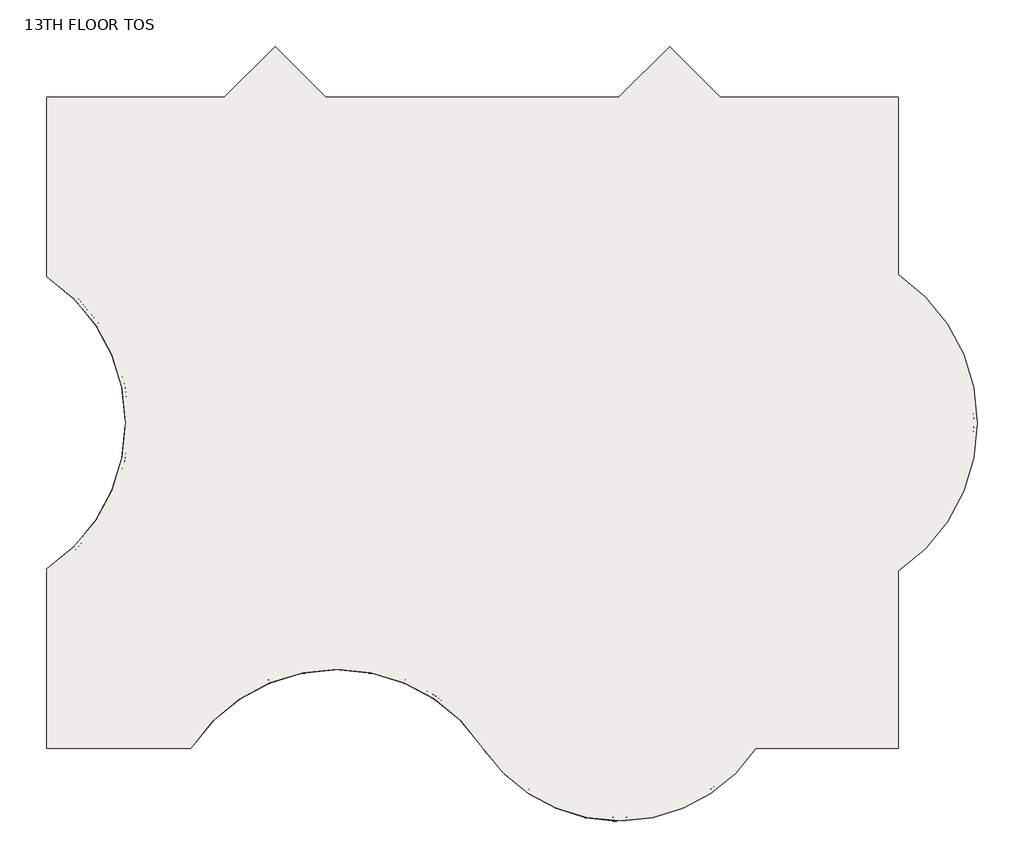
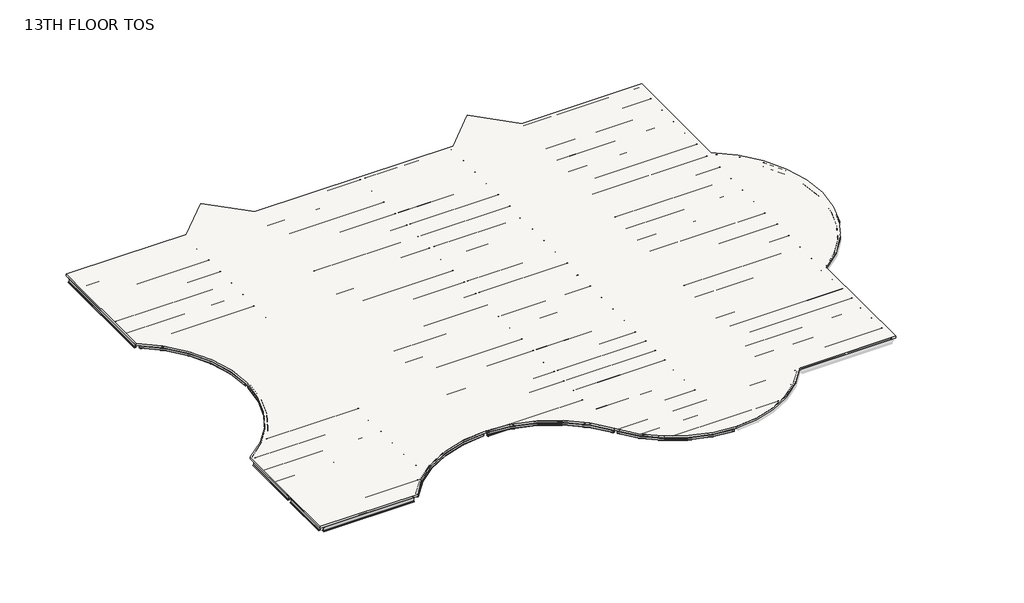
# One storey, part 1 of 2: 86 beams, 1 slab.
"""IFC4 building model written with IfcOpenShell, lengths in millimetres."""

from ifc_helpers import new_model, si_unit, frame, origin, place, context, project, spatial, polyline, circle_curve, transform, mapped, element, save
from ifc_brep_helpers import plane_surface, cylinder_surface, revolved_surface, advanced_brep
from components import m_hss_square_hss203_2x203_2x9_5_914ff4eb, m_hss_square_hss203_2x203_2x9_5_0e3d8e6e, m_hss_square_hss203_2x203_2x9_5_16dc1c03, m_hss_square_hss203_2x203_2x9_5_18346204, m_hss_square_hss203_2x203_2x9_5_d5f1e8c4, ub_universal_beams_ub254x102x28_4e7f3726, ub_universal_beams_ub305x165x40_c4d0385b, ub_universal_beams_ub305x165x40_d3abc31d, ub_universal_beams_ub305x165x40_0c73730f, ub_universal_beams_ub305x165x40_2a963f0c, ub_universal_beams_ub305x165x40_0a5f2f96, ub_universal_beams_ub305x165x40_d1f7c369, ub_universal_beams_ub305x165x40_83d7b7d5, ub_universal_beams_ub305x165x40_729a4ea5, ub_universal_beams_ub305x165x40_71dfa851, ub_universal_beams_ub305x165x40_619b5398, ub_universal_beams_ub305x165x40_c3492db1, ub_universal_beams_ub305x165x40_8f1c350d, ub_universal_beams_ub305x165x40_3afb5f90, ub_universal_beams_ub305x165x40_767d1929, ub_universal_beams_ub305x165x40_5941ca45, ub_universal_beams_ub356x171x51_ef72dcdd, ub_universal_beams_ub356x171x51_7f80702c, ub_universal_beams_ub356x171x51_dfc36663, ub_universal_beams_ub356x171x51_405a853e, ub_universal_beams_ub356x171x51_e47b7055, ub_universal_beams_ub356x171x51_e97f8d2e, ub_universal_beams_ub356x171x51_11d6b780, ub_universal_beams_ub356x171x51_76b2d20b, ub_universal_beams_ub356x171x51_145ecd4b, ub_universal_beams_ub356x171x51_c7dff8d2, ub_universal_beams_ub356x171x51_834c6e34, ub_universal_beams_ub356x171x51_a38b99de, ub_universal_beams_ub356x171x51_d8f4cdde, ub_universal_beams_ub356x171x51_8094f821, ub_universal_beams_ub356x171x51_e661f2e4, ub_universal_beams_ub356x171x51_3ee91673, ub_universal_beams_ub356x171x51_a871b283, ub_universal_beams_ub356x171x51_741bae58

model = new_model("IFC4")

# Units and contexts
model_context = context("Model", 3, world=origin())
ifc_project = project(units=[si_unit("LENGTHUNIT", "METRE", prefix="MILLI")], contexts=[model_context])

# Site, building, storey
site = spatial("IfcSite", under=ifc_project)
building = spatial("IfcBuilding", under=site)
storey = spatial("IfcBuildingStorey", under=building, Name="13TH FLOOR TOS", Elevation=59283.6)

# Beams
placement = place(None, origin())
m_hss_square_hss203_2x203_2x9_5_shape = m_hss_square_hss203_2x203_2x9_5_914ff4eb(model_context)
element("IfcBeam", 1, ObjectType="M_HSS Square : HSS203.2X203.2X9.5", at=placement, inside=storey, context=model_context, shape_type="MappedRepresentation", body=[
    mapped(m_hss_square_hss203_2x203_2x9_5_shape, transform((22710.575, 155.575, 59182.1), x_axis=(-0.552849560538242, 0.8332810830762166, 0.0), y_axis=(-0.8332810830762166, -0.552849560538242, 0.0), z_axis=(0.0, 0.0, 1.0))),
])
m_hss_square_hss203_2x203_2x9_5_2_shape = m_hss_square_hss203_2x203_2x9_5_0e3d8e6e(model_context)
element("IfcBeam", 2, ObjectType="M_HSS Square : HSS203.2X203.2X9.5", at=placement, inside=storey, context=model_context, shape_type="MappedRepresentation", body=[
    mapped(m_hss_square_hss203_2x203_2x9_5_2_shape, transform((155.575, 9299.575, 59182.1), x_axis=(0.8332810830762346, 0.5528495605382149, 0.0), y_axis=(-0.5528495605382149, 0.8332810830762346, 0.0), z_axis=(0.0, 0.0, 1.0))),
])
m_hss_square_hss203_2x203_2x9_5_3_shape = m_hss_square_hss203_2x203_2x9_5_16dc1c03(model_context)
element("IfcBeam", 3, ObjectType="M_HSS Square : HSS203.2X203.2X9.5", at=placement, inside=storey, context=model_context, shape_type="MappedRepresentation", body=[
    mapped(m_hss_square_hss203_2x203_2x9_5_3_shape, transform((155.575, 24539.575, 59182.1), x_axis=(0.8332810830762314, -0.5528495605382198, 0.0), y_axis=(0.5528495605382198, 0.8332810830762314, 0.0), z_axis=(0.0, 0.0, 1.0))),
])
m_hss_square_hss203_2x203_2x9_5_4_shape = m_hss_square_hss203_2x203_2x9_5_18346204(model_context)
element("IfcBeam", 4, ObjectType="M_HSS Square : HSS203.2X203.2X9.5", at=placement, inside=storey, context=model_context, shape_type="MappedRepresentation", body=[
    mapped(m_hss_square_hss203_2x203_2x9_5_4_shape, transform((29734.7266693, -3601.398624, 59182.1), x_axis=(-0.9999968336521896, -0.0025164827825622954, 0.0), y_axis=(0.0025164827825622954, -0.9999968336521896, 0.0), z_axis=(0.0, 0.0, 1.0))),
])
m_hss_square_hss203_2x203_2x9_5_5_shape = m_hss_square_hss203_2x203_2x9_5_d5f1e8c4(model_context)
element("IfcBeam", 5, ObjectType="M_HSS Square : HSS203.2X203.2X9.5", at=placement, inside=storey, context=model_context, shape_type="MappedRepresentation", body=[
    mapped(m_hss_square_hss203_2x203_2x9_5_5_shape, transform((15096.4572854, 4244.5731081, 59182.1), x_axis=(-0.9999997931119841, 0.0006432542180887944, 0.0), y_axis=(-0.0006432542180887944, -0.9999997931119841, 0.0), z_axis=(0.0, 0.0, 1.0))),
])
ub_universal_beams_ub254x102x28_shape = ub_universal_beams_ub254x102x28_4e7f3726(model_context)
element("IfcBeam", 6, ObjectType="UB-Universal Beams : UB254x102x28", at=placement, inside=storey, context=model_context, shape_type="MappedRepresentation", body=[
    mapped(ub_universal_beams_ub254x102x28_shape, transform((9299.575, 3210.915913, 59153.4), x_axis=(0.0, -1.0, 0.0), y_axis=(1.0, 0.0, 0.0), z_axis=(0.0, 0.0, 1.0))),
])
ub_universal_beams_ub305x165x40_shape = ub_universal_beams_ub305x165x40_c4d0385b(model_context)
element("IfcBeam", 7, ObjectType="UB-Universal Beams : UB305x165x40", at=placement, inside=storey, context=model_context, shape_type="MappedRepresentation", body=[
    mapped(ub_universal_beams_ub305x165x40_shape, transform((4727.575, 30635.575, 59131.9), x_axis=(1.0, 0.0, 0.0), y_axis=(0.0, 1.0, 0.0), z_axis=(0.0, 0.0, 1.0))),
])
element("IfcBeam", 8, ObjectType="UB-Universal Beams : UB305x165x40", at=placement, inside=storey, context=model_context, shape_type="MappedRepresentation", body=[
    mapped(ub_universal_beams_ub305x165x40_shape, transform((4727.575, 29111.575, 59131.9), x_axis=(1.0, 0.0, 0.0), y_axis=(0.0, 1.0, 0.0), z_axis=(0.0, 0.0, 1.0))),
])
element("IfcBeam", 9, ObjectType="UB-Universal Beams : UB305x165x40", at=placement, inside=storey, context=model_context, shape_type="MappedRepresentation", body=[
    mapped(ub_universal_beams_ub305x165x40_shape, transform((4727.575, 27587.575, 59131.9), x_axis=(1.0, 0.0, 0.0), y_axis=(0.0, 1.0, 0.0), z_axis=(0.0, 0.0, 1.0))),
])
element("IfcBeam", 10, ObjectType="UB-Universal Beams : UB305x165x40", at=placement, inside=storey, context=model_context, shape_type="MappedRepresentation", body=[
    mapped(ub_universal_beams_ub305x165x40_shape, transform((4727.575, 26063.575, 59131.9), x_axis=(1.0, 0.0, 0.0), y_axis=(0.0, 1.0, 0.0), z_axis=(0.0, 0.0, 1.0))),
])
element("IfcBeam", 11, ObjectType="UB-Universal Beams : UB305x165x40", at=placement, inside=storey, context=model_context, shape_type="MappedRepresentation", body=[
    mapped(ub_universal_beams_ub305x165x40_shape, transform((4727.575, 4727.575, 59131.9), x_axis=(-1.0, 0.0, 0.0), y_axis=(0.0, -1.0, 0.0), z_axis=(0.0, 0.0, 1.0))),
])
element("IfcBeam", 12, ObjectType="UB-Universal Beams : UB305x165x40", at=placement, inside=storey, context=model_context, shape_type="MappedRepresentation", body=[
    mapped(ub_universal_beams_ub305x165x40_shape, transform((4727.575, 6251.575, 59131.9), x_axis=(-1.0, 0.0, 0.0), y_axis=(0.0, -1.0, 0.0), z_axis=(0.0, 0.0, 1.0))),
])
element("IfcBeam", 13, ObjectType="UB-Universal Beams : UB305x165x40", at=placement, inside=storey, context=model_context, shape_type="MappedRepresentation", body=[
    mapped(ub_universal_beams_ub305x165x40_shape, transform((4727.575, 7775.575, 59131.9), x_axis=(-1.0, 0.0, 0.0), y_axis=(0.0, -1.0, 0.0), z_axis=(0.0, 0.0, 1.0))),
])
ub_universal_beams_ub305x165x40_2_shape = ub_universal_beams_ub305x165x40_d3abc31d(model_context)
element("IfcBeam", 14, ObjectType="UB-Universal Beams : UB305x165x40", at=placement, inside=storey, context=model_context, shape_type="MappedRepresentation", body=[
    mapped(ub_universal_beams_ub305x165x40_2_shape, transform((11885.575, 28938.325, 59131.9), x_axis=(1.0, 0.0, 0.0), y_axis=(0.0, 1.0, 0.0), z_axis=(0.0, 0.0, 1.0))),
])
element("IfcBeam", 15, ObjectType="UB-Universal Beams : UB305x165x40", at=placement, inside=storey, context=model_context, shape_type="MappedRepresentation", body=[
    mapped(ub_universal_beams_ub305x165x40_2_shape, transform((11885.575, 27472.075, 59131.9), x_axis=(1.0, 0.0, 0.0), y_axis=(0.0, 1.0, 0.0), z_axis=(0.0, 0.0, 1.0))),
])
element("IfcBeam", 16, ObjectType="UB-Universal Beams : UB305x165x40", at=placement, inside=storey, context=model_context, shape_type="MappedRepresentation", body=[
    mapped(ub_universal_beams_ub305x165x40_2_shape, transform((11885.575, 26005.825, 59131.9), x_axis=(1.0, 0.0, 0.0), y_axis=(0.0, 1.0, 0.0), z_axis=(0.0, 0.0, 1.0))),
])
element("IfcBeam", 17, ObjectType="UB-Universal Beams : UB305x165x40", at=placement, inside=storey, context=model_context, shape_type="MappedRepresentation", body=[
    mapped(ub_universal_beams_ub305x165x40_2_shape, transform((11885.575, 23015.575, 59131.9), x_axis=(1.0, 0.0, 0.0), y_axis=(0.0, 1.0, 0.0), z_axis=(0.0, 0.0, 1.0))),
])
element("IfcBeam", 18, ObjectType="UB-Universal Beams : UB305x165x40", at=placement, inside=storey, context=model_context, shape_type="MappedRepresentation", body=[
    mapped(ub_universal_beams_ub305x165x40_2_shape, transform((11885.575, 21491.575, 59131.9), x_axis=(1.0, 0.0, 0.0), y_axis=(0.0, 1.0, 0.0), z_axis=(0.0, 0.0, 1.0))),
])
element("IfcBeam", 19, ObjectType="UB-Universal Beams : UB305x165x40", at=placement, inside=storey, context=model_context, shape_type="MappedRepresentation", body=[
    mapped(ub_universal_beams_ub305x165x40_2_shape, transform((11885.575, 19967.575, 59131.9), x_axis=(1.0, 0.0, 0.0), y_axis=(0.0, 1.0, 0.0), z_axis=(0.0, 0.0, 1.0))),
])
element("IfcBeam", 20, ObjectType="UB-Universal Beams : UB305x165x40", at=placement, inside=storey, context=model_context, shape_type="MappedRepresentation", body=[
    mapped(ub_universal_beams_ub305x165x40_2_shape, transform((11885.575, 18443.575, 59131.9), x_axis=(1.0, 0.0, 0.0), y_axis=(0.0, 1.0, 0.0), z_axis=(0.0, 0.0, 1.0))),
])
element("IfcBeam", 21, ObjectType="UB-Universal Beams : UB305x165x40", at=placement, inside=storey, context=model_context, shape_type="MappedRepresentation", body=[
    mapped(ub_universal_beams_ub305x165x40_2_shape, transform((11885.575, 15395.575, 59131.9), x_axis=(1.0, 0.0, 0.0), y_axis=(0.0, 1.0, 0.0), z_axis=(0.0, 0.0, 1.0))),
])
element("IfcBeam", 22, ObjectType="UB-Universal Beams : UB305x165x40", at=placement, inside=storey, context=model_context, shape_type="MappedRepresentation", body=[
    mapped(ub_universal_beams_ub305x165x40_2_shape, transform((11885.575, 13871.575, 59131.9), x_axis=(1.0, 0.0, 0.0), y_axis=(0.0, 1.0, 0.0), z_axis=(0.0, 0.0, 1.0))),
])
element("IfcBeam", 23, ObjectType="UB-Universal Beams : UB305x165x40", at=placement, inside=storey, context=model_context, shape_type="MappedRepresentation", body=[
    mapped(ub_universal_beams_ub305x165x40_2_shape, transform((11885.575, 12347.575, 59131.9), x_axis=(1.0, 0.0, 0.0), y_axis=(0.0, 1.0, 0.0), z_axis=(0.0, 0.0, 1.0))),
])
element("IfcBeam", 24, ObjectType="UB-Universal Beams : UB305x165x40", at=placement, inside=storey, context=model_context, shape_type="MappedRepresentation", body=[
    mapped(ub_universal_beams_ub305x165x40_2_shape, transform((11885.575, 10823.575, 59131.9), x_axis=(1.0, 0.0, 0.0), y_axis=(0.0, 1.0, 0.0), z_axis=(0.0, 0.0, 1.0))),
])
element("IfcBeam", 25, ObjectType="UB-Universal Beams : UB305x165x40", at=placement, inside=storey, context=model_context, shape_type="MappedRepresentation", body=[
    mapped(ub_universal_beams_ub305x165x40_2_shape, transform((11885.575, 5026.1840956, 59131.9), x_axis=(-1.0, 0.0, 0.0), y_axis=(0.0, -1.0, 0.0), z_axis=(0.0, 0.0, 1.0))),
])
element("IfcBeam", 26, ObjectType="UB-Universal Beams : UB305x165x40", at=placement, inside=storey, context=model_context, shape_type="MappedRepresentation", body=[
    mapped(ub_universal_beams_ub305x165x40_2_shape, transform((11885.575, 6450.6477304, 59131.9), x_axis=(-1.0, 0.0, 0.0), y_axis=(0.0, -1.0, 0.0), z_axis=(0.0, 0.0, 1.0))),
])
element("IfcBeam", 27, ObjectType="UB-Universal Beams : UB305x165x40", at=placement, inside=storey, context=model_context, shape_type="MappedRepresentation", body=[
    mapped(ub_universal_beams_ub305x165x40_2_shape, transform((11885.575, 7875.1113652, 59131.9), x_axis=(-1.0, 0.0, 0.0), y_axis=(0.0, -1.0, 0.0), z_axis=(0.0, 0.0, 1.0))),
])
ub_universal_beams_ub305x165x40_3_shape = ub_universal_beams_ub305x165x40_0c73730f(model_context)
element("IfcBeam", 28, ObjectType="UB-Universal Beams : UB305x165x40", at=placement, inside=storey, context=model_context, shape_type="MappedRepresentation", body=[
    mapped(ub_universal_beams_ub305x165x40_3_shape, transform((18591.075, 5492.5943214, 59131.9), x_axis=(-1.0, 0.0, 0.0), y_axis=(0.0, -1.0, 0.0), z_axis=(0.0, 0.0, 1.0))),
])
element("IfcBeam", 29, ObjectType="UB-Universal Beams : UB305x165x40", at=placement, inside=storey, context=model_context, shape_type="MappedRepresentation", body=[
    mapped(ub_universal_beams_ub305x165x40_3_shape, transform((18591.075, 6761.5878809, 59131.9), x_axis=(-1.0, 0.0, 0.0), y_axis=(0.0, -1.0, 0.0), z_axis=(0.0, 0.0, 1.0))),
])
element("IfcBeam", 30, ObjectType="UB-Universal Beams : UB305x165x40", at=placement, inside=storey, context=model_context, shape_type="MappedRepresentation", body=[
    mapped(ub_universal_beams_ub305x165x40_3_shape, transform((18591.075, 8030.5814405, 59131.9), x_axis=(-1.0, 0.0, 0.0), y_axis=(0.0, -1.0, 0.0), z_axis=(0.0, 0.0, 1.0))),
])
element("IfcBeam", 31, ObjectType="UB-Universal Beams : UB305x165x40", at=placement, inside=storey, context=model_context, shape_type="MappedRepresentation", body=[
    mapped(ub_universal_beams_ub305x165x40_3_shape, transform((18591.075, 15395.575, 59131.9), x_axis=(1.0, 0.0, 0.0), y_axis=(0.0, 1.0, 0.0), z_axis=(0.0, 0.0, 1.0))),
])
element("IfcBeam", 32, ObjectType="UB-Universal Beams : UB305x165x40", at=placement, inside=storey, context=model_context, shape_type="MappedRepresentation", body=[
    mapped(ub_universal_beams_ub305x165x40_3_shape, transform((18591.075, 13871.575, 59131.9), x_axis=(1.0, 0.0, 0.0), y_axis=(0.0, 1.0, 0.0), z_axis=(0.0, 0.0, 1.0))),
])
element("IfcBeam", 33, ObjectType="UB-Universal Beams : UB305x165x40", at=placement, inside=storey, context=model_context, shape_type="MappedRepresentation", body=[
    mapped(ub_universal_beams_ub305x165x40_3_shape, transform((18591.075, 12347.575, 59131.9), x_axis=(1.0, 0.0, 0.0), y_axis=(0.0, 1.0, 0.0), z_axis=(0.0, 0.0, 1.0))),
])
element("IfcBeam", 34, ObjectType="UB-Universal Beams : UB305x165x40", at=placement, inside=storey, context=model_context, shape_type="MappedRepresentation", body=[
    mapped(ub_universal_beams_ub305x165x40_3_shape, transform((18591.075, 10823.575, 59131.9), x_axis=(1.0, 0.0, 0.0), y_axis=(0.0, 1.0, 0.0), z_axis=(0.0, 0.0, 1.0))),
])
ub_universal_beams_ub305x165x40_4_shape = ub_universal_beams_ub305x165x40_2a963f0c(model_context)
element("IfcBeam", 35, ObjectType="UB-Universal Beams : UB305x165x40", at=placement, inside=storey, context=model_context, shape_type="MappedRepresentation", body=[
    mapped(ub_universal_beams_ub305x165x40_4_shape, transform((26211.075, 15395.575, 59131.9), x_axis=(1.0, 0.0, 0.0), y_axis=(0.0, 1.0, 0.0), z_axis=(0.0, 0.0, 1.0))),
])
element("IfcBeam", 36, ObjectType="UB-Universal Beams : UB305x165x40", at=placement, inside=storey, context=model_context, shape_type="MappedRepresentation", body=[
    mapped(ub_universal_beams_ub305x165x40_4_shape, transform((26211.075, 13871.575, 59131.9), x_axis=(1.0, 0.0, 0.0), y_axis=(0.0, 1.0, 0.0), z_axis=(0.0, 0.0, 1.0))),
])
element("IfcBeam", 37, ObjectType="UB-Universal Beams : UB305x165x40", at=placement, inside=storey, context=model_context, shape_type="MappedRepresentation", body=[
    mapped(ub_universal_beams_ub305x165x40_4_shape, transform((26211.075, 12347.575, 59131.9), x_axis=(1.0, 0.0, 0.0), y_axis=(0.0, 1.0, 0.0), z_axis=(0.0, 0.0, 1.0))),
])
element("IfcBeam", 38, ObjectType="UB-Universal Beams : UB305x165x40", at=placement, inside=storey, context=model_context, shape_type="MappedRepresentation", body=[
    mapped(ub_universal_beams_ub305x165x40_4_shape, transform((26211.075, 10823.575, 59131.9), x_axis=(1.0, 0.0, 0.0), y_axis=(0.0, 1.0, 0.0), z_axis=(0.0, 0.0, 1.0))),
])
element("IfcBeam", 39, ObjectType="UB-Universal Beams : UB305x165x40", at=placement, inside=storey, context=model_context, shape_type="MappedRepresentation", body=[
    mapped(ub_universal_beams_ub305x165x40_4_shape, transform((26211.075, 5508.325, 59131.9), x_axis=(-1.0, 0.0, 0.0), y_axis=(0.0, -1.0, 0.0), z_axis=(0.0, 0.0, 1.0))),
])
element("IfcBeam", 40, ObjectType="UB-Universal Beams : UB305x165x40", at=placement, inside=storey, context=model_context, shape_type="MappedRepresentation", body=[
    mapped(ub_universal_beams_ub305x165x40_4_shape, transform((26211.075, 6772.075, 59131.9), x_axis=(-1.0, 0.0, 0.0), y_axis=(0.0, -1.0, 0.0), z_axis=(0.0, 0.0, 1.0))),
])
element("IfcBeam", 41, ObjectType="UB-Universal Beams : UB305x165x40", at=placement, inside=storey, context=model_context, shape_type="MappedRepresentation", body=[
    mapped(ub_universal_beams_ub305x165x40_4_shape, transform((26211.075, 8035.825, 59131.9), x_axis=(-1.0, 0.0, 0.0), y_axis=(0.0, -1.0, 0.0), z_axis=(0.0, 0.0, 1.0))),
])
element("IfcBeam", 42, ObjectType="UB-Universal Beams : UB305x165x40", at=placement, inside=storey, context=model_context, shape_type="MappedRepresentation", body=[
    mapped(ub_universal_beams_ub305x165x40_4_shape, transform((26211.075, 1518.575, 59131.9), x_axis=(-1.0, 0.0, 0.0), y_axis=(0.0, -1.0, 0.0), z_axis=(0.0, 0.0, 1.0))),
])
element("IfcBeam", 43, ObjectType="UB-Universal Beams : UB305x165x40", at=placement, inside=storey, context=model_context, shape_type="MappedRepresentation", body=[
    mapped(ub_universal_beams_ub305x165x40_4_shape, transform((26211.075, 2881.575, 59131.9), x_axis=(-1.0, 0.0, 0.0), y_axis=(0.0, -1.0, 0.0), z_axis=(0.0, 0.0, 1.0))),
])
ub_universal_beams_ub305x165x40_5_shape = ub_universal_beams_ub305x165x40_0a5f2f96(model_context)
element("IfcBeam", 44, ObjectType="UB-Universal Beams : UB305x165x40", at=placement, inside=storey, context=model_context, shape_type="MappedRepresentation", body=[
    mapped(ub_universal_beams_ub305x165x40_5_shape, transform((29713.575, -2349.0918253, 59131.9), x_axis=(-1.0, 0.0, 0.0), y_axis=(0.0, -1.0, 0.0), z_axis=(0.0, 0.0, 1.0))),
])
ub_universal_beams_ub305x165x40_6_shape = ub_universal_beams_ub305x165x40_d1f7c369(model_context)
element("IfcBeam", 45, ObjectType="UB-Universal Beams : UB305x165x40", at=placement, inside=storey, context=model_context, shape_type="MappedRepresentation", body=[
    mapped(ub_universal_beams_ub305x165x40_6_shape, transform((29713.575, -1096.7584126, 59131.9), x_axis=(-1.0, 0.0, 0.0), y_axis=(0.0, -1.0, 0.0), z_axis=(0.0, 0.0, 1.0))),
])
ub_universal_beams_ub305x165x40_7_shape = ub_universal_beams_ub305x165x40_83d7b7d5(model_context)
element("IfcBeam", 46, ObjectType="UB-Universal Beams : UB305x165x40", at=placement, inside=storey, context=model_context, shape_type="MappedRepresentation", body=[
    mapped(ub_universal_beams_ub305x165x40_7_shape, transform((22157.3041106, 1518.575, 59131.9), x_axis=(-1.0, 0.0, 0.0), y_axis=(0.0, -1.0, 0.0), z_axis=(0.0, 0.0, 1.0))),
])
ub_universal_beams_ub305x165x40_8_shape = ub_universal_beams_ub305x165x40_729a4ea5(model_context)
element("IfcBeam", 47, ObjectType="UB-Universal Beams : UB305x165x40", at=placement, inside=storey, context=model_context, shape_type="MappedRepresentation", body=[
    mapped(ub_universal_beams_ub305x165x40_8_shape, transform((21302.1545844, 2881.575, 59131.9), x_axis=(-1.0, 0.0, 0.0), y_axis=(0.0, -1.0, 0.0), z_axis=(0.0, 0.0, 1.0))),
])
ub_universal_beams_ub305x165x40_9_shape = ub_universal_beams_ub305x165x40_71dfa851(model_context)
element("IfcBeam", 48, ObjectType="UB-Universal Beams : UB305x165x40", at=placement, inside=storey, context=model_context, shape_type="MappedRepresentation", body=[
    mapped(ub_universal_beams_ub305x165x40_9_shape, transform((10511.0323166, 3601.7204608, 59131.9), x_axis=(-1.0, 0.0, 0.0), y_axis=(0.0, -1.0, 0.0), z_axis=(0.0, 0.0, 1.0))),
])
ub_universal_beams_ub305x165x40_10_shape = ub_universal_beams_ub305x165x40_619b5398(model_context)
element("IfcBeam", 49, ObjectType="UB-Universal Beams : UB305x165x40", at=placement, inside=storey, context=model_context, shape_type="MappedRepresentation", body=[
    mapped(ub_universal_beams_ub305x165x40_10_shape, transform((4447.6838282, 1679.575, 59131.9), x_axis=(-1.0, 0.0, 0.0), y_axis=(0.0, -1.0, 0.0), z_axis=(0.0, 0.0, 1.0))),
])
ub_universal_beams_ub305x165x40_11_shape = ub_universal_beams_ub305x165x40_c3492db1(model_context)
element("IfcBeam", 50, ObjectType="UB-Universal Beams : UB305x165x40", at=placement, inside=storey, context=model_context, shape_type="MappedRepresentation", body=[
    mapped(ub_universal_beams_ub305x165x40_11_shape, transform((4727.575, 3203.575, 59131.9), x_axis=(-1.0, 0.0, 0.0), y_axis=(0.0, -1.0, 0.0), z_axis=(0.0, 0.0, 1.0))),
])
ub_universal_beams_ub305x165x40_12_shape = ub_universal_beams_ub305x165x40_8f1c350d(model_context)
element("IfcBeam", 51, ObjectType="UB-Universal Beams : UB305x165x40", at=placement, inside=storey, context=model_context, shape_type="MappedRepresentation", body=[
    mapped(ub_universal_beams_ub305x165x40_12_shape, transform((6708.1318611, 15395.575, 59131.9), x_axis=(1.0, 0.0, 0.0), y_axis=(0.0, 1.0, 0.0), z_axis=(0.0, 0.0, 1.0))),
])
element("IfcBeam", 52, ObjectType="UB-Universal Beams : UB305x165x40", at=placement, inside=storey, context=model_context, shape_type="MappedRepresentation", body=[
    mapped(ub_universal_beams_ub305x165x40_12_shape, transform((6708.1318611, 18443.575, 59131.9), x_axis=(1.0, 0.0, 0.0), y_axis=(0.0, 1.0, 0.0), z_axis=(0.0, 0.0, 1.0))),
])
ub_universal_beams_ub305x165x40_13_shape = ub_universal_beams_ub305x165x40_3afb5f90(model_context)
element("IfcBeam", 53, ObjectType="UB-Universal Beams : UB305x165x40", at=placement, inside=storey, context=model_context, shape_type="MappedRepresentation", body=[
    mapped(ub_universal_beams_ub305x165x40_13_shape, transform((6510.6153272, 13871.575, 59131.9), x_axis=(1.0, 0.0, 0.0), y_axis=(0.0, 1.0, 0.0), z_axis=(0.0, 0.0, 1.0))),
])
element("IfcBeam", 54, ObjectType="UB-Universal Beams : UB305x165x40", at=placement, inside=storey, context=model_context, shape_type="MappedRepresentation", body=[
    mapped(ub_universal_beams_ub305x165x40_13_shape, transform((6510.6153272, 19967.575, 59131.9), x_axis=(1.0, 0.0, 0.0), y_axis=(0.0, 1.0, 0.0), z_axis=(0.0, 0.0, 1.0))),
])
ub_universal_beams_ub305x165x40_14_shape = ub_universal_beams_ub305x165x40_767d1929(model_context)
element("IfcBeam", 55, ObjectType="UB-Universal Beams : UB305x165x40", at=placement, inside=storey, context=model_context, shape_type="MappedRepresentation", body=[
    mapped(ub_universal_beams_ub305x165x40_14_shape, transform((6159.5874928, 12347.575, 59131.9), x_axis=(1.0, 0.0, 0.0), y_axis=(0.0, 1.0, 0.0), z_axis=(0.0, 0.0, 1.0))),
])
element("IfcBeam", 56, ObjectType="UB-Universal Beams : UB305x165x40", at=placement, inside=storey, context=model_context, shape_type="MappedRepresentation", body=[
    mapped(ub_universal_beams_ub305x165x40_14_shape, transform((6159.5874928, 21491.575, 59131.9), x_axis=(1.0, 0.0, 0.0), y_axis=(0.0, 1.0, 0.0), z_axis=(0.0, 0.0, 1.0))),
])
ub_universal_beams_ub305x165x40_15_shape = ub_universal_beams_ub305x165x40_5941ca45(model_context)
element("IfcBeam", 57, ObjectType="UB-Universal Beams : UB305x165x40", at=placement, inside=storey, context=model_context, shape_type="MappedRepresentation", body=[
    mapped(ub_universal_beams_ub305x165x40_15_shape, transform((5607.9405309, 10823.575, 59131.9), x_axis=(1.0, 0.0, 0.0), y_axis=(0.0, 1.0, 0.0), z_axis=(0.0, 0.0, 1.0))),
])
element("IfcBeam", 58, ObjectType="UB-Universal Beams : UB305x165x40", at=placement, inside=storey, context=model_context, shape_type="MappedRepresentation", body=[
    mapped(ub_universal_beams_ub305x165x40_15_shape, transform((5607.9405309, 23015.575, 59131.9), x_axis=(1.0, 0.0, 0.0), y_axis=(0.0, 1.0, 0.0), z_axis=(0.0, 0.0, 1.0))),
])
ub_universal_beams_ub356x171x51_shape = ub_universal_beams_ub356x171x51_ef72dcdd(model_context)
element("IfcBeam", 59, ObjectType="UB-Universal Beams : UB356x171x51", at=placement, inside=storey, context=model_context, shape_type="MappedRepresentation", body=[
    mapped(ub_universal_beams_ub356x171x51_shape, transform((9299.575, 6772.075, 59106.1), x_axis=(0.0, -1.0, 0.0), y_axis=(1.0, 0.0, 0.0), z_axis=(0.0, 0.0, 1.0))),
])
element("IfcBeam", 60, ObjectType="UB-Universal Beams : UB356x171x51", at=placement, inside=storey, context=model_context, shape_type="MappedRepresentation", body=[
    mapped(ub_universal_beams_ub356x171x51_shape, transform((29711.575, 6772.075, 59106.1), x_axis=(0.0, 1.0, 0.0), y_axis=(-1.0, 0.0, 0.0), z_axis=(0.0, 0.0, 1.0))),
])
element("IfcBeam", 61, ObjectType="UB-Universal Beams : UB356x171x51", at=placement, inside=storey, context=model_context, shape_type="MappedRepresentation", body=[
    mapped(ub_universal_beams_ub356x171x51_shape, transform((22710.575, 6772.075, 59106.1), x_axis=(0.0, -1.0, 0.0), y_axis=(1.0, 0.0, 0.0), z_axis=(0.0, 0.0, 1.0))),
])
ub_universal_beams_ub356x171x51_2_shape = ub_universal_beams_ub356x171x51_7f80702c(model_context)
element("IfcBeam", 62, ObjectType="UB-Universal Beams : UB356x171x51", at=placement, inside=storey, context=model_context, shape_type="MappedRepresentation", body=[
    mapped(ub_universal_beams_ub356x171x51_2_shape, transform((3813.075, 155.575, 59106.1), x_axis=(-1.0, 0.0, 0.0), y_axis=(0.0, -1.0, 0.0), z_axis=(0.0, 0.0, 1.0))),
])
ub_universal_beams_ub356x171x51_3_shape = ub_universal_beams_ub356x171x51_dfc36663(model_context)
element("IfcBeam", 63, ObjectType="UB-Universal Beams : UB356x171x51", at=placement, inside=storey, context=model_context, shape_type="MappedRepresentation", body=[
    mapped(ub_universal_beams_ub356x171x51_3_shape, transform((155.575, 2200.075, 59106.1), x_axis=(0.0, 1.0, 0.0), y_axis=(-1.0, 0.0, 0.0), z_axis=(0.0, 0.0, 1.0))),
])
ub_universal_beams_ub356x171x51_4_shape = ub_universal_beams_ub356x171x51_405a853e(model_context)
element("IfcBeam", 64, ObjectType="UB-Universal Beams : UB356x171x51", at=placement, inside=storey, context=model_context, shape_type="MappedRepresentation", body=[
    mapped(ub_universal_beams_ub356x171x51_4_shape, transform((155.575, 6772.075, 59106.1), x_axis=(0.0, 1.0, 0.0), y_axis=(-1.0, 0.0, 0.0), z_axis=(0.0, 0.0, 1.0))),
])
ub_universal_beams_ub356x171x51_5_shape = ub_universal_beams_ub356x171x51_e47b7055(model_context)
element("IfcBeam", 65, ObjectType="UB-Universal Beams : UB356x171x51", at=placement, inside=storey, context=model_context, shape_type="MappedRepresentation", body=[
    mapped(ub_universal_beams_ub356x171x51_5_shape, transform((155.575, 29111.575, 59106.1), x_axis=(0.0, 1.0, 0.0), y_axis=(-1.0, 0.0, 0.0), z_axis=(0.0, 0.0, 1.0))),
])
ub_universal_beams_ub356x171x51_6_shape = ub_universal_beams_ub356x171x51_e97f8d2e(model_context)
element("IfcBeam", 66, ObjectType="UB-Universal Beams : UB356x171x51", at=placement, inside=storey, context=model_context, shape_type="MappedRepresentation", body=[
    mapped(ub_universal_beams_ub356x171x51_6_shape, transform((4727.575, 24539.575, 59106.1), x_axis=(1.0, 0.0, 0.0), y_axis=(0.0, 1.0, 0.0), z_axis=(0.0, 0.0, 1.0))),
])
ub_universal_beams_ub356x171x51_7_shape = ub_universal_beams_ub356x171x51_11d6b780(model_context)
element("IfcBeam", 67, ObjectType="UB-Universal Beams : UB356x171x51", at=placement, inside=storey, context=model_context, shape_type="MappedRepresentation", body=[
    mapped(ub_universal_beams_ub356x171x51_7_shape, transform((11885.575, 24539.575, 59106.1), x_axis=(1.0, 0.0, 0.0), y_axis=(0.0, 1.0, 0.0), z_axis=(0.0, 0.0, 1.0))),
])
element("IfcBeam", 68, ObjectType="UB-Universal Beams : UB356x171x51", at=placement, inside=storey, context=model_context, shape_type="MappedRepresentation", body=[
    mapped(ub_universal_beams_ub356x171x51_7_shape, transform((11885.575, 9299.575, 59106.1), x_axis=(-1.0, 0.0, 0.0), y_axis=(0.0, -1.0, 0.0), z_axis=(0.0, 0.0, 1.0))),
])
element("IfcBeam", 69, ObjectType="UB-Universal Beams : UB356x171x51", at=placement, inside=storey, context=model_context, shape_type="MappedRepresentation", body=[
    mapped(ub_universal_beams_ub356x171x51_7_shape, transform((11885.575, 16919.575, 59106.1), x_axis=(1.0, 0.0, 0.0), y_axis=(0.0, 1.0, 0.0), z_axis=(0.0, 0.0, 1.0))),
])
ub_universal_beams_ub356x171x51_8_shape = ub_universal_beams_ub356x171x51_76b2d20b(model_context)
element("IfcBeam", 70, ObjectType="UB-Universal Beams : UB356x171x51", at=placement, inside=storey, context=model_context, shape_type="MappedRepresentation", body=[
    mapped(ub_universal_beams_ub356x171x51_8_shape, transform((18591.075, 9299.575, 59106.1), x_axis=(-1.0, 0.0, 0.0), y_axis=(0.0, -1.0, 0.0), z_axis=(0.0, 0.0, 1.0))),
])
ub_universal_beams_ub356x171x51_9_shape = ub_universal_beams_ub356x171x51_145ecd4b(model_context)
element("IfcBeam", 71, ObjectType="UB-Universal Beams : UB356x171x51", at=placement, inside=storey, context=model_context, shape_type="MappedRepresentation", body=[
    mapped(ub_universal_beams_ub356x171x51_9_shape, transform((26211.075, 9299.575, 59106.1), x_axis=(-1.0, 0.0, 0.0), y_axis=(0.0, -1.0, 0.0), z_axis=(0.0, 0.0, 1.0))),
])
element("IfcBeam", 72, ObjectType="UB-Universal Beams : UB356x171x51", at=placement, inside=storey, context=model_context, shape_type="MappedRepresentation", body=[
    mapped(ub_universal_beams_ub356x171x51_9_shape, transform((26211.075, 4244.575, 59106.1), x_axis=(-1.0, 0.0, 0.0), y_axis=(0.0, -1.0, 0.0), z_axis=(0.0, 0.0, 1.0))),
])
ub_universal_beams_ub356x171x51_10_shape = ub_universal_beams_ub356x171x51_c7dff8d2(model_context)
element("IfcBeam", 73, ObjectType="UB-Universal Beams : UB356x171x51", at=placement, inside=storey, context=model_context, shape_type="MappedRepresentation", body=[
    mapped(ub_universal_beams_ub356x171x51_10_shape, transform((4727.575, 9299.575, 59106.1), x_axis=(-1.0, 0.0, 0.0), y_axis=(0.0, -1.0, 0.0), z_axis=(0.0, 0.0, 1.0))),
])
ub_universal_beams_ub356x171x51_11_shape = ub_universal_beams_ub356x171x51_834c6e34(model_context)
element("IfcBeam", 74, ObjectType="UB-Universal Beams : UB356x171x51", at=placement, inside=storey, context=model_context, shape_type="MappedRepresentation", body=[
    mapped(ub_universal_beams_ub356x171x51_11_shape, transform((14471.575, 6761.5878809, 59106.1), x_axis=(0.0, -1.0, 0.0), y_axis=(1.0, 0.0, 0.0), z_axis=(0.0, 0.0, 1.0))),
])
ub_universal_beams_ub356x171x51_12_shape = ub_universal_beams_ub356x171x51_a38b99de(model_context)
element("IfcBeam", 75, ObjectType="UB-Universal Beams : UB356x171x51", at=placement, inside=storey, context=model_context, shape_type="MappedRepresentation", body=[
    mapped(ub_universal_beams_ub356x171x51_12_shape, transform((9299.575, 13109.575, 59106.1), x_axis=(0.0, 1.0, 0.0), y_axis=(-1.0, 0.0, 0.0), z_axis=(0.0, 0.0, 1.0))),
])
element("IfcBeam", 76, ObjectType="UB-Universal Beams : UB356x171x51", at=placement, inside=storey, context=model_context, shape_type="MappedRepresentation", body=[
    mapped(ub_universal_beams_ub356x171x51_12_shape, transform((9299.575, 20729.575, 59106.1), x_axis=(0.0, 1.0, 0.0), y_axis=(-1.0, 0.0, 0.0), z_axis=(0.0, 0.0, 1.0))),
])
element("IfcBeam", 77, ObjectType="UB-Universal Beams : UB356x171x51", at=placement, inside=storey, context=model_context, shape_type="MappedRepresentation", body=[
    mapped(ub_universal_beams_ub356x171x51_12_shape, transform((14471.575, 20729.575, 59106.1), x_axis=(0.0, -1.0, 0.0), y_axis=(1.0, 0.0, 0.0), z_axis=(0.0, 0.0, 1.0))),
])
element("IfcBeam", 78, ObjectType="UB-Universal Beams : UB356x171x51", at=placement, inside=storey, context=model_context, shape_type="MappedRepresentation", body=[
    mapped(ub_universal_beams_ub356x171x51_12_shape, transform((14471.575, 13109.575, 59106.1), x_axis=(0.0, -1.0, 0.0), y_axis=(1.0, 0.0, 0.0), z_axis=(0.0, 0.0, 1.0))),
])
element("IfcBeam", 79, ObjectType="UB-Universal Beams : UB356x171x51", at=placement, inside=storey, context=model_context, shape_type="MappedRepresentation", body=[
    mapped(ub_universal_beams_ub356x171x51_12_shape, transform((22710.575, 13109.575, 59106.1), x_axis=(0.0, -1.0, 0.0), y_axis=(1.0, 0.0, 0.0), z_axis=(0.0, 0.0, 1.0))),
])
element("IfcBeam", 80, ObjectType="UB-Universal Beams : UB356x171x51", at=placement, inside=storey, context=model_context, shape_type="MappedRepresentation", body=[
    mapped(ub_universal_beams_ub356x171x51_12_shape, transform((29711.575, 13109.575, 59106.1), x_axis=(0.0, 1.0, 0.0), y_axis=(-1.0, 0.0, 0.0), z_axis=(0.0, 0.0, 1.0))),
])
ub_universal_beams_ub356x171x51_13_shape = ub_universal_beams_ub356x171x51_d8f4cdde(model_context)
element("IfcBeam", 81, ObjectType="UB-Universal Beams : UB356x171x51", at=placement, inside=storey, context=model_context, shape_type="MappedRepresentation", body=[
    mapped(ub_universal_beams_ub356x171x51_13_shape, transform((9299.575, 29111.575, 59106.1), x_axis=(0.0, 1.0, 0.0), y_axis=(-1.0, 0.0, 0.0), z_axis=(0.0, 0.0, 1.0))),
])
ub_universal_beams_ub356x171x51_14_shape = ub_universal_beams_ub356x171x51_8094f821(model_context)
element("IfcBeam", 82, ObjectType="UB-Universal Beams : UB356x171x51", at=placement, inside=storey, context=model_context, shape_type="MappedRepresentation", body=[
    mapped(ub_universal_beams_ub356x171x51_14_shape, transform((6772.075, 16919.575, 59106.1), x_axis=(1.0, 0.0, 0.0), y_axis=(0.0, 1.0, 0.0), z_axis=(0.0, 0.0, 1.0))),
])
ub_universal_beams_ub356x171x51_15_shape = ub_universal_beams_ub356x171x51_e661f2e4(model_context)
element("IfcBeam", 83, ObjectType="UB-Universal Beams : UB356x171x51", at=placement, inside=storey, context=model_context, shape_type="MappedRepresentation", body=[
    mapped(ub_universal_beams_ub356x171x51_15_shape, transform((29713.575, 155.575, 59106.1), x_axis=(-1.0, 0.0, 0.0), y_axis=(0.0, -1.0, 0.0), z_axis=(0.0, 0.0, 1.0))),
])
ub_universal_beams_ub356x171x51_16_shape = ub_universal_beams_ub356x171x51_3ee91673(model_context)
element("IfcBeam", 84, ObjectType="UB-Universal Beams : UB356x171x51", at=placement, inside=storey, context=model_context, shape_type="MappedRepresentation", body=[
    mapped(ub_universal_beams_ub356x171x51_16_shape, transform((18900.575, 4244.575, 59106.1), x_axis=(-1.0, 0.0, 0.0), y_axis=(0.0, -1.0, 0.0), z_axis=(0.0, 0.0, 1.0))),
])
ub_universal_beams_ub356x171x51_17_shape = ub_universal_beams_ub356x171x51_a871b283(model_context)
element("IfcBeam", 85, ObjectType="UB-Universal Beams : UB356x171x51", at=placement, inside=storey, context=model_context, shape_type="MappedRepresentation", body=[
    mapped(ub_universal_beams_ub356x171x51_17_shape, transform((22710.575, 2200.075, 59106.1), x_axis=(0.0, -1.0, 0.0), y_axis=(1.0, 0.0, 0.0), z_axis=(0.0, 0.0, 1.0))),
])
ub_universal_beams_ub356x171x51_18_shape = ub_universal_beams_ub356x171x51_741bae58(model_context)
element("IfcBeam", 86, ObjectType="UB-Universal Beams : UB356x171x51", at=placement, inside=storey, context=model_context, shape_type="MappedRepresentation", body=[
    mapped(ub_universal_beams_ub356x171x51_18_shape, transform((29711.575, 2200.075, 59106.1), x_axis=(0.0, -1.0, 0.0), y_axis=(1.0, 0.0, 0.0), z_axis=(0.0, 0.0, 1.0))),
])

# Slab
element("IfcSlab", 87, ObjectType="152mm Concrete With 50mm Metal Deck", at=placement, inside=storey, context=model_context, shape_type="AdvancedBrep", body=[
    advanced_brep(
    [(69.575, 33769.575, 59283.6), (4244.575, 33769.575, 59283.6), (9263.9526336, 33769.575, 59283.6), (11885.575, 36391.1973664, 59283.6), (14507.1973664, 33769.575, 59283.6), (22710.575, 33769.575, 59283.6), (29675.9526336, 33769.575, 59283.6), (32297.575, 36391.1973664, 59283.6), (34919.1973664, 33769.575, 59283.6), (44113.575, 33769.575, 59283.6), (44113.575, 24585.5849139, 59283.6), (44113.575, 9253.5650861, 59283.6), (44113.575, 4244.575, 59283.6), (44113.575, 69.575, 59283.6), (36762.5616677, 69.575, 59283.6), (29734.9430869, -3687.3983517, 59283.6), (22638.9224102, 108.0154965, 59283.6), (15096.4019655, 4158.5731259, 59283.6), (7516.8644167, 69.575, 59283.6), (69.575, 69.575, 59283.6), (69.575, 4244.575, 59283.6), (69.575, 9345.8644167, 59283.6), (69.575, 24493.2855833, 59283.6), (69.575, 33769.575, 59435.6), (69.575, 24493.2855833, 59435.6), (69.575, 9345.8644167, 59435.6), (69.575, 4244.575, 59435.6), (69.575, 69.575, 59435.6), (7516.8644167, 69.575, 59435.6), (15096.4019655, 4158.5731259, 59435.6), (22638.9128269, 108.0299378, 59435.6), (29734.9430869, -3687.3983517, 59435.6), (36762.5616677, 69.575, 59435.6), (44113.575, 69.575, 59435.6), (44113.575, 4244.575, 59435.6), (44113.575, 9253.5650861, 59435.6), (44113.575, 24585.5849139, 59435.6), (44113.575, 33769.575, 59435.6), (34919.1973664, 33769.575, 59435.6), (32297.575, 36391.1973664, 59435.6), (29675.9526336, 33769.575, 59435.6), (22710.575, 33769.575, 59435.6), (14507.1973664, 33769.575, 59435.6), (11885.575, 36391.1973664, 59435.6), (9263.9526336, 33769.575, 59435.6), (4244.575, 33769.575, 59435.6)],
    [
        (0, 1),
        (1, 2),
        (2, 3),
        (3, 4),
        (4, 5),
        (5, 6),
        (6, 7),
        (7, 8),
        (8, 9),
        (9, 10),
        (10, 11, circle_curve(frame((38972.0016324, 16919.575, 59283.6), z_axis=(0.0, 0.0, -1.0), x_axis=(1.0, 0.0, 0.0)), 9230.5733676)),
        (11, 12),
        (12, 13),
        (13, 14),
        (14, 15, circle_curve(frame((29713.575, 4803.825732, 59283.6), z_axis=(0.0, 0.0, -1.0), x_axis=(1.0, 0.0, 0.0)), 8491.2509699)),
        (15, 16, circle_curve(frame((29713.575, 4803.825732, 59283.6), z_axis=(0.0, 0.0, -1.0), x_axis=(1.0, 0.0, 0.0)), 8491.2509699)),
        (16, 17, circle_curve(frame((15090.575, -4899.9983676, 59283.6), z_axis=(0.0, 0.0, 1.0), x_axis=(1.0, 0.0, 0.0)), 9058.5733676)),
        (17, 18, circle_curve(frame((15090.575, -4899.9983676, 59283.6), z_axis=(0.0, 0.0, 1.0), x_axis=(1.0, 0.0, 0.0)), 9058.5733676)),
        (18, 19),
        (19, 20),
        (20, 21),
        (21, 22, circle_curve(frame((-4899.9983676, 16919.575, 59283.6), z_axis=(0.0, 0.0, 1.0), x_axis=(1.0, 0.0, 0.0)), 9058.5733676)),
        (22, 0),
        (23, 24),
        (24, 25, circle_curve(frame((-4899.9983676, 16919.575, 59435.6), z_axis=(0.0, 0.0, -1.0), x_axis=(1.0, 0.0, 0.0)), 9058.5733676)),
        (25, 26),
        (26, 27),
        (27, 28),
        (28, 29, circle_curve(frame((15090.575, -4899.9983676, 59435.6), z_axis=(0.0, 0.0, -1.0), x_axis=(1.0, 0.0, 0.0)), 9058.5733676)),
        (29, 30, circle_curve(frame((15090.575, -4899.9983676, 59435.6), z_axis=(0.0, 0.0, -1.0), x_axis=(1.0, 0.0, 0.0)), 9058.5733676)),
        (30, 31, circle_curve(frame((29713.575, 4803.825732, 59435.6), z_axis=(0.0, 0.0, 1.0), x_axis=(1.0, 0.0, 0.0)), 8491.2509699)),
        (31, 32, circle_curve(frame((29713.575, 4803.825732, 59435.6), z_axis=(0.0, 0.0, 1.0), x_axis=(1.0, 0.0, 0.0)), 8491.2509699)),
        (32, 33),
        (33, 34),
        (34, 35),
        (35, 36, circle_curve(frame((38972.0016324, 16919.575, 59435.6), z_axis=(0.0, 0.0, 1.0), x_axis=(1.0, 0.0, 0.0)), 9230.5733676)),
        (36, 37),
        (37, 38),
        (38, 39),
        (39, 40),
        (40, 41),
        (41, 42),
        (42, 43),
        (43, 44),
        (44, 45),
        (45, 23),
        (0, 23),
        (45, 1),
        (44, 2),
        (43, 3),
        (42, 4),
        (41, 5),
        (40, 6),
        (39, 7),
        (38, 8),
        (37, 9),
        (36, 10),
        (35, 11),
        (34, 12),
        (33, 13),
        (32, 14),
        (31, 15),
        (30, 16),
        (29, 17),
        (28, 18),
        (27, 19),
        (26, 20),
        (25, 21),
        (24, 22),
    ],
    [
        plane_surface(frame((155.575, 33769.575, 59283.6), z_axis=(0.0, 0.0, -1.0), x_axis=(1.0, 0.0, 0.0))),
        plane_surface(frame((155.575, 33769.575, 59435.6), z_axis=(0.0, 0.0, 1.0), x_axis=(-1.0, 0.0, 0.0))),
        plane_surface(frame((69.575, 33769.575, 59283.6), z_axis=(0.0, 1.0, 0.0), x_axis=(0.0, 0.0, 1.0))),
        plane_surface(frame((4244.575, 33769.575, 59283.6), z_axis=(0.0, 1.0, 0.0), x_axis=(0.0, 0.0, 1.0))),
        plane_surface(frame((9263.9526336, 33769.575, 59283.6), z_axis=(-0.7071067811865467, 0.7071067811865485, 0.0), x_axis=(0.0, 0.0, 1.0))),
        plane_surface(frame((11885.575, 36391.1973664, 59283.6), z_axis=(0.7071067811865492, 0.7071067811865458, 0.0), x_axis=(0.0, 0.0, 1.0))),
        plane_surface(frame((14507.1973664, 33769.575, 59283.6), z_axis=(0.0, 1.0, 0.0), x_axis=(0.0, 0.0, 1.0))),
        plane_surface(frame((22710.575, 33769.575, 59283.6), z_axis=(0.0, 1.0, 0.0), x_axis=(0.0, 0.0, 1.0))),
        plane_surface(frame((29675.9526336, 33769.575, 59283.6), z_axis=(-0.7071067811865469, 0.7071067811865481, 0.0), x_axis=(0.0, 0.0, 1.0))),
        plane_surface(frame((32297.575, 36391.1973664, 59283.6), z_axis=(0.7071067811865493, 0.7071067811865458, 0.0), x_axis=(0.0, 0.0, 1.0))),
        plane_surface(frame((34919.1973664, 33769.575, 59283.6), z_axis=(0.0, 1.0, 0.0), x_axis=(0.0, 0.0, 1.0))),
        plane_surface(frame((44113.575, 33769.575, 59283.6), z_axis=(1.0, 0.0, 0.0), x_axis=(0.0, 0.0, 1.0))),
        cylinder_surface(frame((38972.0016324, 16919.575, 59435.6), z_axis=(0.0, 0.0, -1.0), x_axis=(1.0, 0.0, 0.0)), 9230.5733676),
        plane_surface(frame((44113.575, 9253.5650861, 59283.6), z_axis=(1.0, 0.0, 0.0), x_axis=(0.0, 0.0, 1.0))),
        plane_surface(frame((44113.575, 4244.575, 59283.6), z_axis=(1.0, 0.0, 0.0), x_axis=(0.0, 0.0, 1.0))),
        plane_surface(frame((44113.575, 69.575, 59283.6), z_axis=(0.0, -1.0, 0.0), x_axis=(0.0, 0.0, 1.0))),
        cylinder_surface(frame((29713.575, 4803.825732, 59435.6), z_axis=(0.0, 0.0, -1.0), x_axis=(1.0, 0.0, 0.0)), 8491.2509699),
        revolved_surface(polyline([(24149.1483676, -4899.9983676, 59435.6), (24149.1483676, -4899.9983676, 59283.6)]), (15090.575, -4899.9983676, 59435.6), (0.0, 0.0, 1.0)),
        plane_surface(frame((7516.8644167, 69.575, 59283.6), z_axis=(0.0, -1.0, 0.0), x_axis=(0.0, 0.0, 1.0))),
        plane_surface(frame((69.575, 69.575, 59283.6), z_axis=(-1.0, 0.0, 0.0), x_axis=(0.0, 0.0, 1.0))),
        plane_surface(frame((69.575, 4244.575, 59283.6), z_axis=(-1.0, 0.0, 0.0), x_axis=(0.0, 0.0, 1.0))),
        revolved_surface(polyline([(4158.575, 16919.575, 59435.6), (4158.575, 16919.575, 59283.6)]), (-4899.9983676, 16919.575, 59435.6), (0.0, 0.0, 1.0)),
        plane_surface(frame((69.575, 24493.2855833, 59283.6), z_axis=(-1.0, 0.0, 0.0), x_axis=(0.0, 0.0, 1.0))),
    ],
    [
        (0, [[1, 2, 3, 4, 5, 6, 7, 8, 9, 10, 11, 12, 13, 14, 15, 16, 17, 18, 19, 20, 21, 22, 23]]),
        (1, [[24, 25, 26, 27, 28, 29, 30, 31, 32, 33, 34, 35, 36, 37, 38, 39, 40, 41, 42, 43, 44, 45, 46]]),
        (2, [[-1, 47, -46, 48]]),
        (3, [[-2, -48, -45, 49]]),
        (4, [[-3, -49, -44, 50]]),
        (5, [[-4, -50, -43, 51]]),
        (6, [[-5, -51, -42, 52]]),
        (7, [[-6, -52, -41, 53]]),
        (8, [[-7, -53, -40, 54]]),
        (9, [[-8, -54, -39, 55]]),
        (10, [[-9, -55, -38, 56]]),
        (11, [[-10, -56, -37, 57]]),
        (12, [[-11, -57, -36, 58]]),
        (13, [[-12, -58, -35, 59]]),
        (14, [[-13, -59, -34, 60]]),
        (15, [[-14, -60, -33, 61]]),
        (16, [[-15, -61, -32, 62]]),
        (16, [[-16, -62, -31, 63]]),
        (17, [[-17, -63, -30, 64]]),
        (17, [[-18, -64, -29, 65]]),
        (18, [[-19, -65, -28, 66]]),
        (19, [[-20, -66, -27, 67]]),
        (20, [[-21, -67, -26, 68]]),
        (21, [[-22, -68, -25, 69]]),
        (22, [[-23, -69, -24, -47]]),
    ],
),
])

save(model, "model.ifc")
